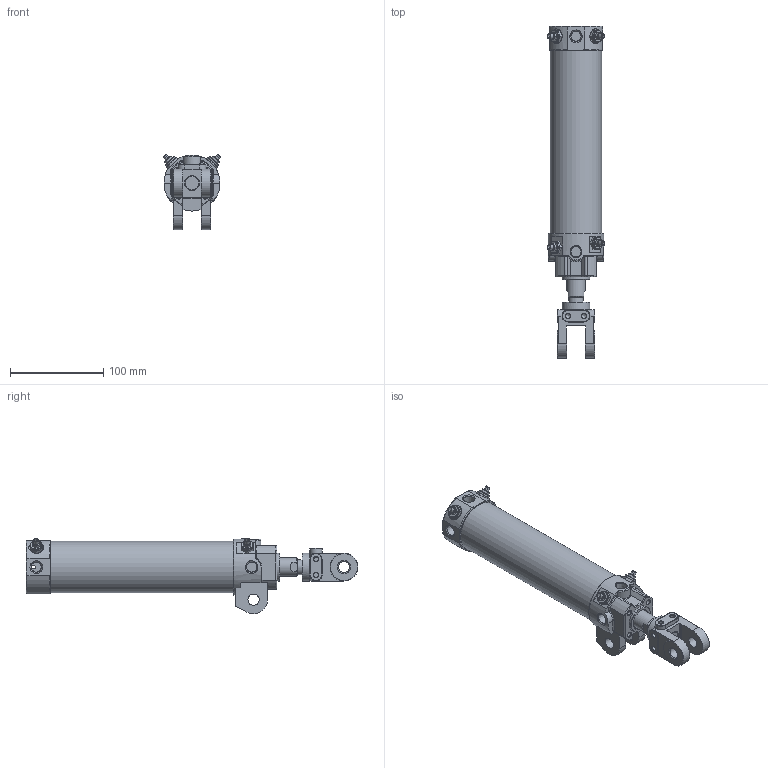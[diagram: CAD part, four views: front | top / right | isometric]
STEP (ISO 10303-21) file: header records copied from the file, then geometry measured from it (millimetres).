
FILE_DESCRIPTION((''),'2;1');
FILE_NAME('I:\3D電子目錄\氣缸\DCK\DCK\DCK-1B-50x150-Y.stp','2008-02-26T14:55:33',('Administrator'),(''),'Autodesk Inventor 11','Autodesk Inventor 11','');
FILE_SCHEMA(('AUTOMOTIVE_DESIGN { 1 0 10303 214 1 1 1 1 }'));
Length unit declared in the file: millimetre
Products named in the file (6): DCK-1B-50-Y; 緩衝針; 緩衝針-1; 緩衝針-201; 緩衝針-3
Assembly tree (8 placements, depth 3):
  DCK-1B-50-Y
    DCK-1B-50-Y
    緩衝針  x4
      緩衝針-1
      緩衝針-201
      緩衝針-3
Bounding box: 61.76 x 356 x 80.87 mm (x, y, z)
Volume: 292221.1 mm3; surface area: 137081.1 mm2
Topology: 15 solids, 15 shells, 647 faces, 1457 edges, 908 vertices
Faces by surface type: plane 240, cylinder 188, cone 143, bspline 40, torus 36
Full cylindrical faces by diameter (mm): 2 x2, 3 x4, 3.8 x2, 4 x6, 4.6 x4, 4.917 x2, 5 x8, 5.1 x4, 5.2 x12, 5.5 x4, 7.25 x1, 7.9 x4, 8 x2, 10.3 x1, 11.3 x1, 12 x6, 12.8 x4, 16 x3, 20 x1, 21 x1, 22 x2, 23 x1, 24.7 x1, 26 x1, 27 x1, 28 x1, 29 x1, 30 x4, 33 x1, 49.5 x1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
Entity records: 14021 total; most frequent: CARTESIAN_POINT 5596, DIRECTION 1727, ORIENTED_EDGE 1528, EDGE_CURVE 764, AXIS2_PLACEMENT_3D 739, EDGE_LOOP 608, VERTEX_POINT 550, FACE_OUTER_BOUND 398
